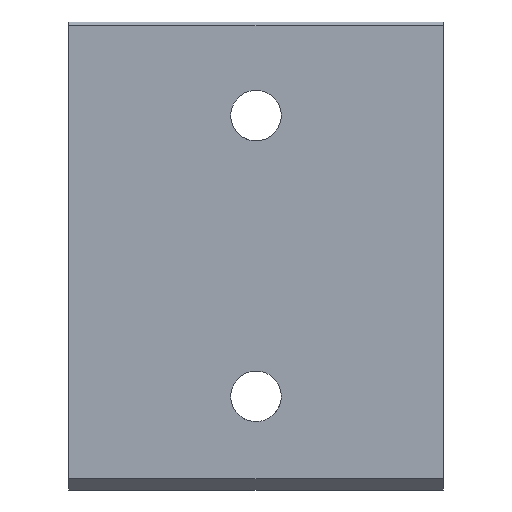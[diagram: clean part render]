
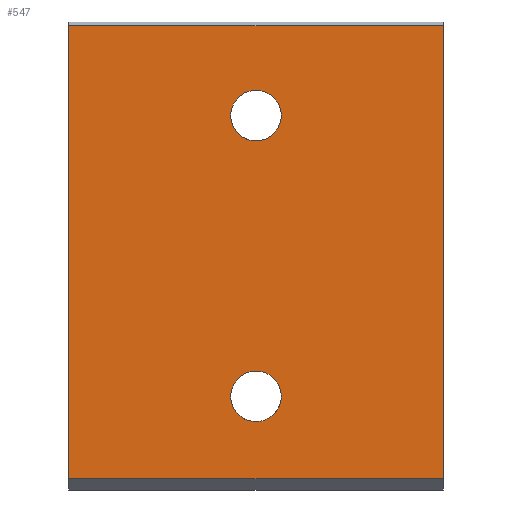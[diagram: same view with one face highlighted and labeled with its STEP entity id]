
A CAD part, left-side view. The second image highlights one B-rep face of the part: STEP entity #547.
In plain terms, the highlighted planar face has unit normal (-1, 0, 0).
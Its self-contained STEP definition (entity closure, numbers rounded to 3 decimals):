
#6 = CARTESIAN_POINT ( 'NONE',  ( 0., 0., 3. ) ) ;
#36 = EDGE_LOOP ( 'NONE', ( #417, #434 ) ) ;
#37 = VERTEX_POINT ( 'NONE', #586 ) ;
#43 = DIRECTION ( 'NONE',  ( 0., 0., 1. ) ) ;
#51 = CARTESIAN_POINT ( 'NONE',  ( 0., 5.924, 96.764 ) ) ;
#54 = FACE_BOUND ( 'NONE', #36, .T. ) ;
#80 = LINE ( 'NONE', #472, #154 ) ;
#90 = VERTEX_POINT ( 'NONE', #200 ) ;
#105 = FACE_BOUND ( 'NONE', #483, .T. ) ;
#110 = VERTEX_POINT ( 'NONE', #573 ) ;
#111 = DIRECTION ( 'NONE',  ( 0., 0., 1. ) ) ;
#112 = EDGE_CURVE ( 'NONE', #491, #288, #592, .T. ) ;
#115 = CARTESIAN_POINT ( 'NONE',  ( 0., 5.5, 20.988 ) ) ;
#142 = DIRECTION ( 'NONE',  ( 0., 1., 0. ) ) ;
#144 = EDGE_CURVE ( 'NONE', #90, #641, #285, .T. ) ;
#147 = CARTESIAN_POINT ( 'NONE',  ( 0., 50., 124. ) ) ;
#152 = VERTEX_POINT ( 'NONE', #51 ) ;
#154 = VECTOR ( 'NONE', #43, 1000. ) ;
#158 = ORIENTED_EDGE ( 'NONE', *, *, #367, .F. ) ;
#160 = CARTESIAN_POINT ( 'NONE',  ( 0., -50., 124. ) ) ;
#186 = DIRECTION ( 'NONE',  ( -1., 0., 0. ) ) ;
#191 = AXIS2_PLACEMENT_3D ( 'NONE', #591, #543, #553 ) ;
#200 = CARTESIAN_POINT ( 'NONE',  ( 0., -50., 3. ) ) ;
#201 = DIRECTION ( 'NONE',  ( 0., 1., 0. ) ) ;
#207 = CARTESIAN_POINT ( 'NONE',  ( 0., 0., 25. ) ) ;
#210 = DIRECTION ( 'NONE',  ( -1., 0., 0. ) ) ;
#213 = DIRECTION ( 'NONE',  ( 0., -1., 0. ) ) ;
#217 = EDGE_LOOP ( 'NONE', ( #390, #310, #599, #551 ) ) ;
#219 = CARTESIAN_POINT ( 'NONE',  ( 0., 0., 100. ) ) ;
#223 = EDGE_CURVE ( 'NONE', #37, #636, #80, .T. ) ;
#249 = EDGE_CURVE ( 'NONE', #90, #37, #633, .T. ) ;
#270 = CIRCLE ( 'NONE', #455, 6.75 ) ;
#278 = ORIENTED_EDGE ( 'NONE', *, *, #326, .F. ) ;
#285 = LINE ( 'NONE', #395, #580 ) ;
#288 = VERTEX_POINT ( 'NONE', #425 ) ;
#289 = CARTESIAN_POINT ( 'NONE',  ( 0., -2.461, 18.653 ) ) ;
#310 = ORIENTED_EDGE ( 'NONE', *, *, #144, .T. ) ;
#320 = CARTESIAN_POINT ( 'NONE',  ( 0., 0.156, 18.194 ) ) ;
#326 = EDGE_CURVE ( 'NONE', #110, #152, #270, .T. ) ;
#330 = DIRECTION ( 'NONE',  ( 0., 0., 1. ) ) ;
#331 = EDGE_CURVE ( 'NONE', #641, #636, #528, .T. ) ;
#340 = CARTESIAN_POINT ( 'NONE',  ( 0., 2.748, 18.772 ) ) ;
#345 = VECTOR ( 'NONE', #201, 1000. ) ;
#347 = AXIS2_PLACEMENT_3D ( 'NONE', #207, #210, #213 ) ;
#365 = CARTESIAN_POINT ( 'NONE',  ( 0., 3.546, 19.189 ) ) ;
#367 = EDGE_CURVE ( 'NONE', #152, #110, #701, .T. ) ;
#388 = CARTESIAN_POINT ( 'NONE',  ( 0., -5.924, 28.236 ) ) ;
#390 = ORIENTED_EDGE ( 'NONE', *, *, #249, .F. ) ;
#395 = CARTESIAN_POINT ( 'NONE',  ( 0., -50., 63.5 ) ) ;
#417 = ORIENTED_EDGE ( 'NONE', *, *, #112, .F. ) ;
#425 = CARTESIAN_POINT ( 'NONE',  ( 0., -5.924, 28.236 ) ) ;
#426 = CARTESIAN_POINT ( 'NONE',  ( 0., 1.053, 18.274 ) ) ;
#434 = ORIENTED_EDGE ( 'NONE', *, *, #653, .F. ) ;
#437 = VECTOR ( 'NONE', #142, 1000. ) ;
#439 = AXIS2_PLACEMENT_3D ( 'NONE', #6, #570, #330 ) ;
#451 = CARTESIAN_POINT ( 'NONE',  ( 0., 5.924, 21.764 ) ) ;
#455 = AXIS2_PLACEMENT_3D ( 'NONE', #219, #186, #630 ) ;
#458 = CARTESIAN_POINT ( 'NONE',  ( 0., 4.922, 20.298 ) ) ;
#459 = CARTESIAN_POINT ( 'NONE',  ( 0., 5.924, 21.764 ) ) ;
#472 = CARTESIAN_POINT ( 'NONE',  ( 0., 50., 63.5 ) ) ;
#483 = EDGE_LOOP ( 'NONE', ( #158, #278 ) ) ;
#490 = CARTESIAN_POINT ( 'NONE',  ( 0., 0., 124. ) ) ;
#491 = VERTEX_POINT ( 'NONE', #459 ) ;
#513 = CARTESIAN_POINT ( 'NONE',  ( 0., 0., 3. ) ) ;
#525 = CARTESIAN_POINT ( 'NONE',  ( 0., -6.617, 26.601 ) ) ;
#527 = CARTESIAN_POINT ( 'NONE',  ( 0., -6.347, 27.461 ) ) ;
#528 = LINE ( 'NONE', #490, #345 ) ;
#536 = CARTESIAN_POINT ( 'NONE',  ( 0., -6.726, 23.947 ) ) ;
#543 = DIRECTION ( 'NONE',  ( -1., 0., 0. ) ) ;
#547 = ADVANCED_FACE ( 'NONE', ( #651, #54, #105 ), #611, .T. ) ;
#550 = CARTESIAN_POINT ( 'NONE',  ( 0., -6.806, 24.844 ) ) ;
#551 = ORIENTED_EDGE ( 'NONE', *, *, #223, .F. ) ;
#553 = DIRECTION ( 'NONE',  ( 0., -1., 0. ) ) ;
#561 = CARTESIAN_POINT ( 'NONE',  ( 0., -4.012, 19.5 ) ) ;
#563 = CIRCLE ( 'NONE', #347, 6.75 ) ;
#569 = CARTESIAN_POINT ( 'NONE',  ( 0., -4.702, 20.078 ) ) ;
#570 = DIRECTION ( 'NONE',  ( -1., 0., 0. ) ) ;
#573 = CARTESIAN_POINT ( 'NONE',  ( 0., -5.924, 103.236 ) ) ;
#580 = VECTOR ( 'NONE', #111, 1000. ) ;
#586 = CARTESIAN_POINT ( 'NONE',  ( 0., 50., 3. ) ) ;
#591 = CARTESIAN_POINT ( 'NONE',  ( 0., 0., 100. ) ) ;
#592 = B_SPLINE_CURVE_WITH_KNOTS ( 'NONE', 3,
 ( #451, #115, #458, #365, #340, #426, #320, #615, #289, #561, #569, #597, #670, #536, #550, #525, #527, #388 ),
 .UNSPECIFIED., .F., .F.,
 ( 4, 2, 2, 2, 2, 2, 2, 2, 4 ),
 ( 0., 0.125, 0.25, 0.375, 0.5, 0.625, 0.75, 0.875, 1. ),
 .UNSPECIFIED. ) ;
#597 = CARTESIAN_POINT ( 'NONE',  ( 0., -5.811, 21.454 ) ) ;
#599 = ORIENTED_EDGE ( 'NONE', *, *, #331, .T. ) ;
#611 = PLANE ( 'NONE',  #439 ) ;
#615 = CARTESIAN_POINT ( 'NONE',  ( 0., -1.601, 18.383 ) ) ;
#630 = DIRECTION ( 'NONE',  ( 0., -1., 0. ) ) ;
#633 = LINE ( 'NONE', #513, #437 ) ;
#636 = VERTEX_POINT ( 'NONE', #147 ) ;
#641 = VERTEX_POINT ( 'NONE', #160 ) ;
#651 = FACE_OUTER_BOUND ( 'NONE', #217, .T. ) ;
#653 = EDGE_CURVE ( 'NONE', #288, #491, #563, .T. ) ;
#670 = CARTESIAN_POINT ( 'NONE',  ( 0., -6.228, 22.252 ) ) ;
#701 = CIRCLE ( 'NONE', #191, 6.75 ) ;
